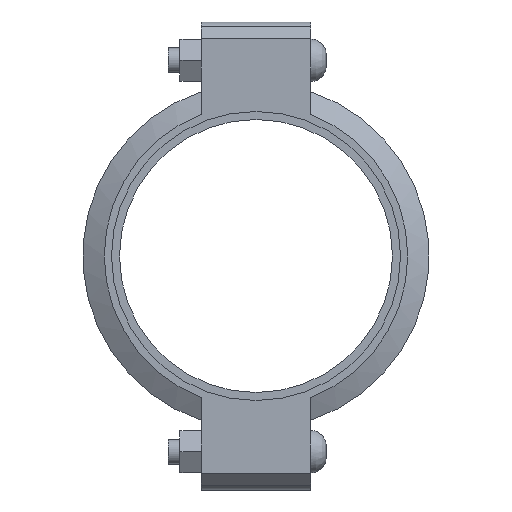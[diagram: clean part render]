
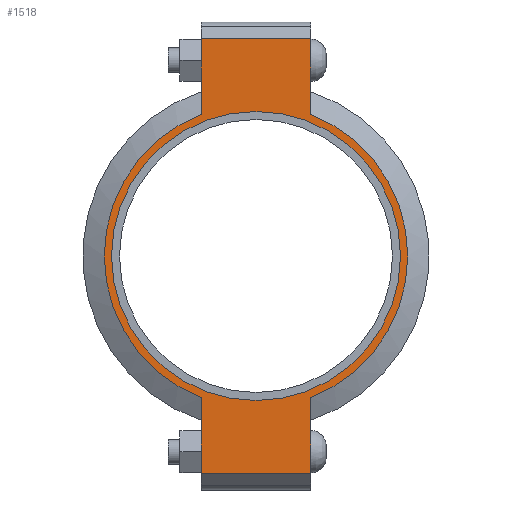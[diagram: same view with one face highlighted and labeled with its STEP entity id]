
A CAD part, left-side view. The second image highlights one B-rep face of the part: STEP entity #1518.
In plain terms, the highlighted planar face has unit normal (-1, 0, 0) as drawn and (0, 0, 1) by its records, which use the part's own axes.
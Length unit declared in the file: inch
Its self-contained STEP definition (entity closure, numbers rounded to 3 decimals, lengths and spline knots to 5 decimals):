
#142=LINE('',#2658,#235);
#150=LINE('',#2694,#243);
#157=LINE('',#2715,#250);
#166=LINE('',#2747,#259);
#167=LINE('',#2751,#260);
#168=LINE('',#2753,#261);
#235=VECTOR('',#2174,0.3937);
#243=VECTOR('',#2190,0.3937);
#250=VECTOR('',#2209,0.3937);
#259=VECTOR('',#2234,0.3937);
#260=VECTOR('',#2239,0.3937);
#261=VECTOR('',#2240,0.3937);
#317=FACE_BOUND('',#495,.T.);
#389=FACE_OUTER_BOUND('',#494,.T.);
#494=EDGE_LOOP('',(#1259,#1260,#1261,#1262,#1263,#1264,#1265,#1266));
#495=EDGE_LOOP('',(#1267));
#567=CIRCLE('',#1746,4.3125);
#593=CIRCLE('',#1805,4.53);
#594=CIRCLE('',#1806,4.53);
#659=VERTEX_POINT('',#2474);
#702=VERTEX_POINT('',#2655);
#703=VERTEX_POINT('',#2657);
#714=VERTEX_POINT('',#2689);
#715=VERTEX_POINT('',#2693);
#722=VERTEX_POINT('',#2712);
#723=VERTEX_POINT('',#2714);
#733=VERTEX_POINT('',#2750);
#734=VERTEX_POINT('',#2752);
#815=EDGE_CURVE('',#659,#659,#567,.T.);
#876=EDGE_CURVE('',#703,#702,#142,.T.);
#890=EDGE_CURVE('',#715,#714,#150,.T.);
#900=EDGE_CURVE('',#723,#722,#157,.T.);
#915=EDGE_CURVE('',#715,#702,#166,.T.);
#916=EDGE_CURVE('',#714,#723,#593,.T.);
#917=EDGE_CURVE('',#733,#722,#167,.T.);
#918=EDGE_CURVE('',#733,#734,#168,.T.);
#919=EDGE_CURVE('',#734,#703,#594,.T.);
#1259=ORIENTED_EDGE('',*,*,#915,.F.);
#1260=ORIENTED_EDGE('',*,*,#890,.T.);
#1261=ORIENTED_EDGE('',*,*,#916,.T.);
#1262=ORIENTED_EDGE('',*,*,#900,.T.);
#1263=ORIENTED_EDGE('',*,*,#917,.F.);
#1264=ORIENTED_EDGE('',*,*,#918,.T.);
#1265=ORIENTED_EDGE('',*,*,#919,.T.);
#1266=ORIENTED_EDGE('',*,*,#876,.T.);
#1267=ORIENTED_EDGE('',*,*,#815,.T.);
#1360=PLANE('',#1804);
#1518=ADVANCED_FACE('',(#389,#317),#1360,.T.);
#1746=AXIS2_PLACEMENT_3D('',#2476,#2050,#2051);
#1804=AXIS2_PLACEMENT_3D('',#2748,#2235,#2236);
#1805=AXIS2_PLACEMENT_3D('',#2749,#2237,#2238);
#1806=AXIS2_PLACEMENT_3D('',#2754,#2241,#2242);
#2050=DIRECTION('center_axis',(0.,0.,-1.));
#2051=DIRECTION('ref_axis',(1.,0.,0.));
#2174=DIRECTION('',(1.,0.,0.));
#2190=DIRECTION('',(-1.,0.,0.));
#2209=DIRECTION('',(-1.,0.,0.));
#2234=DIRECTION('',(0.,-1.,0.));
#2235=DIRECTION('center_axis',(0.,0.,1.));
#2236=DIRECTION('ref_axis',(-1.,0.,0.));
#2237=DIRECTION('center_axis',(0.,0.,1.));
#2238=DIRECTION('ref_axis',(1.,0.,0.));
#2239=DIRECTION('',(0.,1.,0.));
#2240=DIRECTION('',(1.,0.,0.));
#2241=DIRECTION('center_axis',(0.,0.,1.));
#2242=DIRECTION('ref_axis',(1.,0.,0.));
#2474=CARTESIAN_POINT('',(-4.3125,0.,1.16));
#2476=CARTESIAN_POINT('Origin',(0.,0.,1.16));
#2655=CARTESIAN_POINT('',(6.485,-1.63,1.16));
#2657=CARTESIAN_POINT('',(4.22658,-1.63,1.16));
#2658=CARTESIAN_POINT('',(6.985,-1.63,1.16));
#2689=CARTESIAN_POINT('',(4.22658,1.63,1.16));
#2693=CARTESIAN_POINT('',(6.485,1.63,1.16));
#2694=CARTESIAN_POINT('',(-6.985,1.63,1.16));
#2712=CARTESIAN_POINT('',(-6.485,1.63,1.16));
#2714=CARTESIAN_POINT('',(-4.22658,1.63,1.16));
#2715=CARTESIAN_POINT('',(-6.985,1.63,1.16));
#2747=CARTESIAN_POINT('',(6.485,-0.815,1.16));
#2748=CARTESIAN_POINT('Origin',(0.,0.,
1.16));
#2749=CARTESIAN_POINT('Origin',(0.,0.,1.16));
#2750=CARTESIAN_POINT('',(-6.485,-1.63,1.16));
#2751=CARTESIAN_POINT('',(-6.485,0.815,1.16));
#2752=CARTESIAN_POINT('',(-4.22658,-1.63,1.16));
#2753=CARTESIAN_POINT('',(6.985,-1.63,1.16));
#2754=CARTESIAN_POINT('Origin',(0.,0.,1.16));
